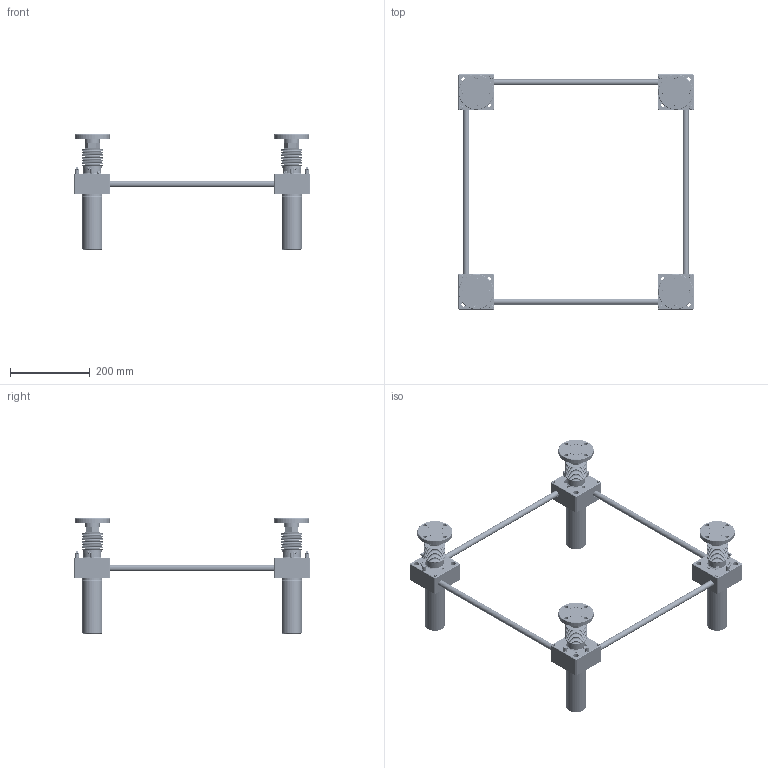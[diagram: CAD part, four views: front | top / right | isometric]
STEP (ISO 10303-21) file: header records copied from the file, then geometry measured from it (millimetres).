
FILE_DESCRIPTION(('STEP AP203'),'1');
FILE_NAME('SP500FCJ-500x500-100ST_CAP.stp','2016-08-09T08:41:21',(' '),(' '),'Spatial InterOp 3D',' ',' ');
FILE_SCHEMA(('CONFIG_CONTROL_DESIGN'));
Length unit declared in the file: millimetre
Products named in the file (100): SP500FCJ-500x500-100ST_CAP; Rack Gear(SP-500FC); Flange.1-Part; Flange.1; Joint.1; Nut.1; Flange.2-Part; Flange.2; Joint.2; Nut.2; Flange.3-Part; Flange.3; Joint.3; Nut.3; Flange.4-Part; Flange.4; Joint.4; Nut.4; Bellow(SP-500); Body.1-Part; Nipple; Bolt; Gear Box.1(Upper); Gear Box.1(Lower); RJ05-4SCJ-610X600-100ST_CAP; LABEL-B.1; ___; 파트18; __ SP500; Body.2-Part; Gear Box.2(Upper); Gear Box.2(Lower); Body.3-Part; Gear Box.3(Upper); Gear Box.3(Lower); Body.4-Part; Gear Box.4(Upper); Gear Box.4(Lower); Cap.1-Part; Cap.1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
Assembly tree (104 placements, depth 6):
  SP500FCJ-500x500-100ST_CAP
    Rack Gear(SP-500FC)  x4
    Flange.1-Part
      Flange.1
      Joint.1
      Nut.1
    Flange.2-Part
      Flange.2
      Joint.2
      Nut.2
    Flange.3-Part
      Flange.3
      Joint.3
      Nut.3
    Flange.4-Part
      Flange.4
      Joint.4
      Nut.4
    Bellow(SP-500)
    Bellow(SP-500)
    Bellow(SP-500)
    Bellow(SP-500)
    Body.1-Part
      Nipple
      Nipple
      Bolt
      Bolt
      Bolt
      Bolt
      Bolt
      Gear Box.1(Upper)
      Gear Box.1(Lower)
      __ SP500
        ___
          RJ05-4SCJ-610X600-100ST_CAP
            LABEL-B.1
          파트18
    Body.2-Part
      Nipple
      Nipple
      Bolt
      Bolt
      Bolt
      Bolt
      Bolt
      Gear Box.2(Upper)
      Gear Box.2(Lower)
      __ SP500
        ___
          RJ05-4SCJ-610X600-100ST_CAP
            LABEL-B.1
          파트18
    Body.3-Part
      Nipple
      Nipple
      Bolt
      Bolt
      Bolt
      Bolt
      Bolt
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Bounding box: 590.32 x 590.32 x 290 mm (x, y, z)
Volume: 2711732.1 mm3; surface area: 1139471.6 mm2
Topology: 128 solids, 128 shells, 10820 faces, 29970 edges, 19794 vertices
Faces by surface type: plane 9376, cylinder 684, cone 328, revolution 168, extrusion 152, torus 88, bspline 20, sphere 4
Full cylindrical faces by diameter (mm): 2.5 x8, 4.8 x8, 6 x48, 7 x20, 9 x16, 9.5 x16, 9.886 x8, 10.5 x40, 13.5 x8, 15 x4, 23 x4, 25 x60, 26 x8, 27 x4, 28 x8, 28.3 x8, 29.5 x8, 37 x4, 38 x4, 40 x4, 41 x4, 41.1 x4, 41.5 x12, 42.5 x4, 44 x4, 44.5 x4, 45 x16, 47 x4, 50 x8, 88 x4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
Entity records: 318410 total; most frequent: CARTESIAN_POINT 62778, ORIENTED_EDGE 53684, DIRECTION 47384, EDGE_CURVE 26842, VECTOR 24496, LINE 24344, VERTEX_POINT 18110, AXIS2_PLACEMENT_3D 11360
